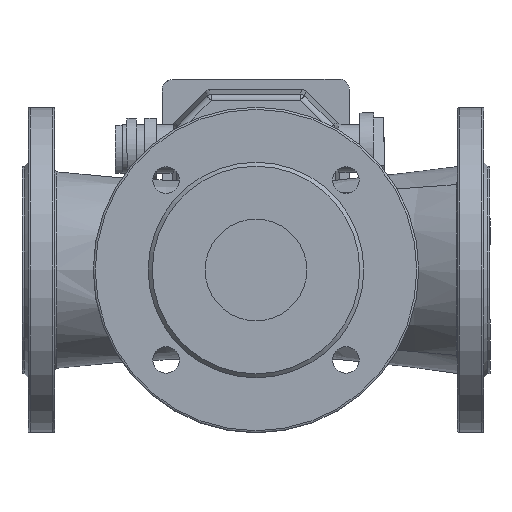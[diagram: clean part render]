
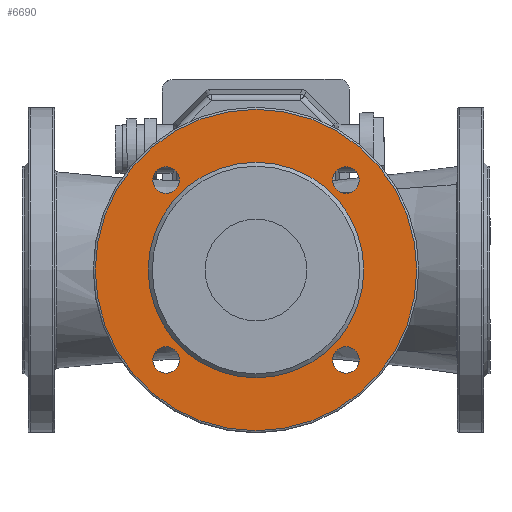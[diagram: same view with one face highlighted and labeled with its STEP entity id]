
A CAD part, front view. The second image highlights one B-rep face of the part: STEP entity #6690.
In plain terms, the highlighted planar face has unit normal (0, -1, 0).
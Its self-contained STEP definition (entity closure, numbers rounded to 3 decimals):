
#1333=PLANE('',#7449);
#1459=FACE_BOUND('',#2404,.T.);
#1460=FACE_BOUND('',#2405,.T.);
#1461=FACE_BOUND('',#2406,.T.);
#1462=FACE_BOUND('',#2407,.T.);
#1463=FACE_BOUND('',#2408,.T.);
#1878=FACE_OUTER_BOUND('',#2403,.T.);
#2403=EDGE_LOOP('',(#6094));
#2404=EDGE_LOOP('',(#6095));
#2405=EDGE_LOOP('',(#6096));
#2406=EDGE_LOOP('',(#6097));
#2407=EDGE_LOOP('',(#6098));
#2408=EDGE_LOOP('',(#6099));
#2755=CIRCLE('',#7387,6.5);
#2757=CIRCLE('',#7390,6.5);
#2759=CIRCLE('',#7393,6.5);
#2761=CIRCLE('',#7396,6.5);
#2791=CIRCLE('',#7448,53.);
#2792=CIRCLE('',#7450,79.);
#3369=VERTEX_POINT('',#11573);
#3371=VERTEX_POINT('',#11578);
#3373=VERTEX_POINT('',#11583);
#3375=VERTEX_POINT('',#11588);
#3420=VERTEX_POINT('',#12771);
#3421=VERTEX_POINT('',#12774);
#4272=EDGE_CURVE('',#3369,#3369,#2755,.T.);
#4274=EDGE_CURVE('',#3371,#3371,#2757,.T.);
#4276=EDGE_CURVE('',#3373,#3373,#2759,.T.);
#4278=EDGE_CURVE('',#3375,#3375,#2761,.T.);
#4328=EDGE_CURVE('',#3420,#3420,#2791,.T.);
#4329=EDGE_CURVE('',#3421,#3421,#2792,.T.);
#6094=ORIENTED_EDGE('',*,*,#4329,.F.);
#6095=ORIENTED_EDGE('',*,*,#4272,.T.);
#6096=ORIENTED_EDGE('',*,*,#4274,.T.);
#6097=ORIENTED_EDGE('',*,*,#4276,.T.);
#6098=ORIENTED_EDGE('',*,*,#4278,.T.);
#6099=ORIENTED_EDGE('',*,*,#4328,.F.);
#6690=ADVANCED_FACE('',(#1878,#1459,#1460,#1461,#1462,#1463),#1333,.T.);
#7387=AXIS2_PLACEMENT_3D('',#11574,#9309,#9310);
#7390=AXIS2_PLACEMENT_3D('',#11579,#9315,#9316);
#7393=AXIS2_PLACEMENT_3D('',#11584,#9321,#9322);
#7396=AXIS2_PLACEMENT_3D('',#11589,#9327,#9328);
#7448=AXIS2_PLACEMENT_3D('',#12772,#9432,#9433);
#7449=AXIS2_PLACEMENT_3D('',#12773,#9434,#9435);
#7450=AXIS2_PLACEMENT_3D('',#12775,#9436,#9437);
#9309=DIRECTION('center_axis',(0.,1.,0.));
#9310=DIRECTION('ref_axis',(-0.581,0.,0.814));
#9315=DIRECTION('center_axis',(0.,1.,0.));
#9316=DIRECTION('ref_axis',(-0.814,0.,-0.581));
#9321=DIRECTION('center_axis',(0.,1.,0.));
#9322=DIRECTION('ref_axis',(0.581,0.,-0.814));
#9327=DIRECTION('center_axis',(0.,1.,0.));
#9328=DIRECTION('ref_axis',(0.814,0.,0.581));
#9432=DIRECTION('center_axis',(0.,-1.,0.));
#9433=DIRECTION('ref_axis',(0.814,0.,-0.581));
#9434=DIRECTION('center_axis',(0.,-1.,0.));
#9435=DIRECTION('ref_axis',(0.,0.,-1.));
#9436=DIRECTION('center_axis',(0.,1.,0.));
#9437=DIRECTION('ref_axis',(0.,0.,-1.));
#11573=CARTESIAN_POINT('',(1871.635,1156.244,1275.043));
#11574=CARTESIAN_POINT('Origin',(1871.635,1156.244,1268.543));
#11578=CARTESIAN_POINT('',(1865.135,1156.244,1180.155));
#11579=CARTESIAN_POINT('Origin',(1871.635,1156.244,1180.155));
#11583=CARTESIAN_POINT('',(1960.023,1156.244,1173.655));
#11584=CARTESIAN_POINT('Origin',(1960.023,1156.244,1180.155));
#11588=CARTESIAN_POINT('',(1966.523,1156.244,1268.543));
#11589=CARTESIAN_POINT('Origin',(1960.023,1156.244,1268.543));
#12771=CARTESIAN_POINT('',(1968.829,1156.244,1224.349));
#12772=CARTESIAN_POINT('Origin',(1915.829,1156.244,1224.349));
#12773=CARTESIAN_POINT('Origin',(1836.829,1156.244,1224.349));
#12774=CARTESIAN_POINT('',(1994.829,1156.244,1224.349));
#12775=CARTESIAN_POINT('Origin',(1915.829,1156.244,1224.349));
